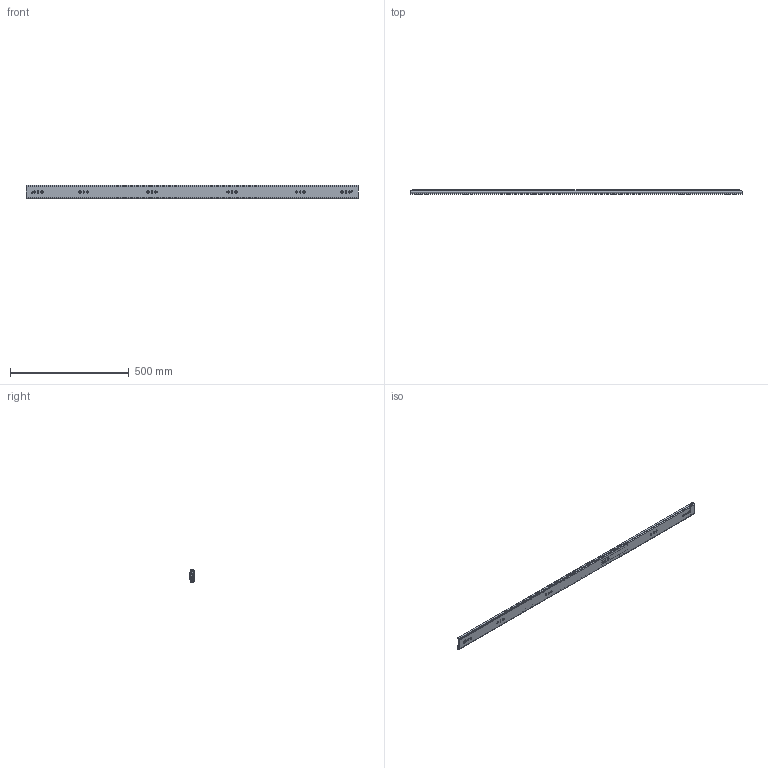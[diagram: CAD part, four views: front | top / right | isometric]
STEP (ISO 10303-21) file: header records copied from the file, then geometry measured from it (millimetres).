
FILE_DESCRIPTION((''),'2;1');
FILE_NAME('1057-C-56_ASM','2023-11-23T',('jishu015'),(''),'PRO/ENGINEER BY PARAMETRIC TECHNOLOGY CORPORATION, 2010280','PRO/ENGINEER BY PARAMETRIC TECHNOLOGY CORPORATION, 2010280','');
FILE_SCHEMA(('CONFIG_CONTROL_DESIGN'));
Products named in the file (19): KP-57-01WEIKE-31______________; MAODING-WAI______________; 1057DAZHUJIA-20GE111; 1057ZHUJIADANWEIJIAO1234_; 1057-5-6GANZHU1______________; 1057DAZHUJIA-20GE_12______ASM; 1057-C-20-KE_______________ASM; KP-57-01ZHONGGUI-36______; PEIJIAN-22______________; ZHUANJIAO112______________; LIUJIAO-DING11______________; MAODING-P______________; PEIJIAN-ZHONG_______________ASM; 1057XIAOZHUJIA___2011__; 1057XIAOZHUJIA-20GE11___ASM; KP-57-01ZHONGGUI-36_______ASM; KP-57-01NEIGUI-242; KP-57-01NEIGUI-242_ASM; 1057-C-56_ASM
Assembly tree (224 placements, depth 4):
  1057-C-56_ASM
    1057-C-20-KE_______________ASM
      KP-57-01WEIKE-31______________
      MAODING-WAI______________  x2
      1057DAZHUJIA-20GE_12______ASM
        1057DAZHUJIA-20GE111
        1057ZHUJIADANWEIJIAO1234_  x2
        1057-5-6GANZHU1______________  x100
    KP-57-01ZHONGGUI-36_______ASM
      KP-57-01ZHONGGUI-36______
      PEIJIAN-ZHONG_______________ASM  x2
        PEIJIAN-22______________
        ZHUANJIAO112______________
        LIUJIAO-DING11______________
        MAODING-P______________
      MAODING-WAI______________  x2
      1057XIAOZHUJIA-20GE11___ASM
        1057XIAOZHUJIA___2011__
        1057-5-6GANZHU1______________  x100
        1057ZHUJIADANWEIJIAO1234_  x2
    KP-57-01NEIGUI-242_ASM
      KP-57-01NEIGUI-242
Bounding box: 1400 x 19.8 x 57.67 mm (x, y, z)
Volume: 611640.2 mm3; surface area: 717164.3 mm2
Topology: 221 solids, 221 shells, 5402 faces, 15046 edges, 9280 vertices
Faces by surface type: plane 2416, cylinder 2224, sphere 406, bspline 154, cone 114, torus 88
Entity records: 156574 total; most frequent: CARTESIAN_POINT 32483, DIRECTION 26444, ORIENTED_EDGE 25714, EDGE_CURVE 12857, AXIS2_PLACEMENT_3D 9112, VERTEX_POINT 8264, VECTOR 8220, LINE 8220
